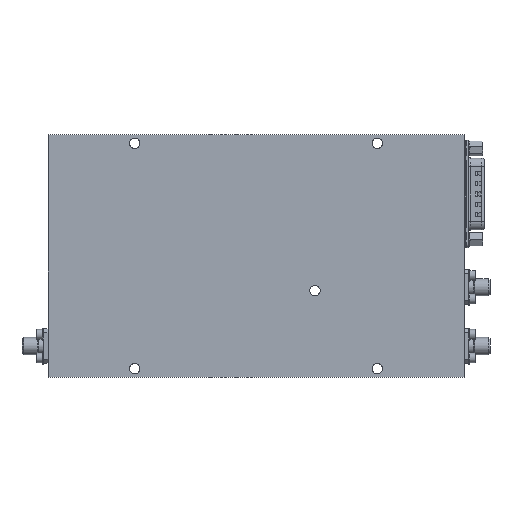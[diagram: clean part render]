
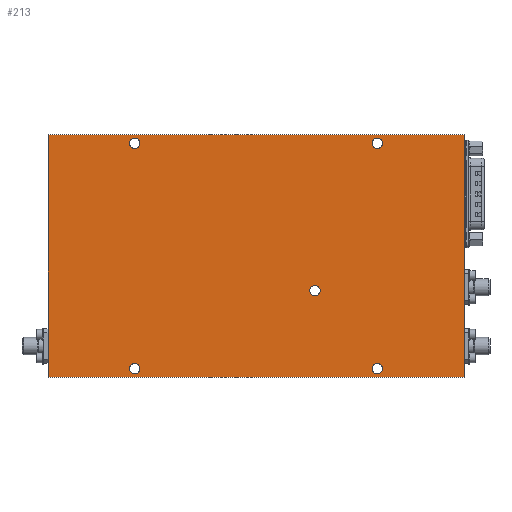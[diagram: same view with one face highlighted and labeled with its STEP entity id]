
A CAD part, top view. The second image highlights one B-rep face of the part: STEP entity #213.
In plain terms, the highlighted planar face has unit normal (0, 0, 1).
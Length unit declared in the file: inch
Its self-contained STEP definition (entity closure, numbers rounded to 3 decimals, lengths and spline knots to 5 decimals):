
#119=CARTESIAN_POINT('',(0.0,0.,0.693));
#120=DIRECTION('',(0.0,0.0,1.0));
#121=DIRECTION('',(1.0,0.0,0.0));
#122=AXIS2_PLACEMENT_3D('',#119,#120,#121);
#123=PLANE('',#122);
#124=CARTESIAN_POINT('',(3.0,1.75,0.693));
#125=VERTEX_POINT('',#124);
#126=CARTESIAN_POINT('',(-3.0,1.75,0.693));
#127=VERTEX_POINT('',#126);
#128=CARTESIAN_POINT('',(3.0,1.75,0.693));
#129=DIRECTION('',(-1.0,0.0,0.0));
#130=VECTOR('',#129,6.0);
#131=LINE('',#128,#130);
#132=EDGE_CURVE('',#125,#127,#131,.T.);
#133=ORIENTED_EDGE('',*,*,#132,.T.);
#134=CARTESIAN_POINT('',(-3.0,-1.75,0.693));
#135=VERTEX_POINT('',#134);
#136=CARTESIAN_POINT('',(-3.0,1.75,0.693));
#137=DIRECTION('',(0.0,-1.0,0.0));
#138=VECTOR('',#137,3.5);
#139=LINE('',#136,#138);
#140=EDGE_CURVE('',#127,#135,#139,.T.);
#141=ORIENTED_EDGE('',*,*,#140,.T.);
#142=CARTESIAN_POINT('',(3.0,-1.75,0.693));
#143=VERTEX_POINT('',#142);
#144=CARTESIAN_POINT('',(-3.0,-1.75,0.693));
#145=DIRECTION('',(1.0,0.0,0.0));
#146=VECTOR('',#145,6.);
#147=LINE('',#144,#146);
#148=EDGE_CURVE('',#135,#143,#147,.T.);
#149=ORIENTED_EDGE('',*,*,#148,.T.);
#150=CARTESIAN_POINT('',(3.0,-1.75,0.693));
#151=DIRECTION('',(0.0,1.0,0.0));
#152=VECTOR('',#151,3.5);
#153=LINE('',#150,#152);
#154=EDGE_CURVE('',#143,#125,#153,.T.);
#155=ORIENTED_EDGE('',*,*,#154,.T.);
#156=EDGE_LOOP('',(#133,#141,#149,#155));
#157=FACE_OUTER_BOUND('',#156,.T.);
#158=CARTESIAN_POINT('',(1.825,-1.625,0.693));
#159=VERTEX_POINT('',#158);
#160=CARTESIAN_POINT('',(1.75,-1.625,0.693));
#161=DIRECTION('',(0.0,0.0,-1.0));
#162=DIRECTION('',(-1.0,0.0,0.0));
#163=AXIS2_PLACEMENT_3D('',#160,#161,#162);
#164=CIRCLE('',#163,0.075);
#165=EDGE_CURVE('',#159,#159,#164,.T.);
#166=ORIENTED_EDGE('',*,*,#165,.T.);
#167=EDGE_LOOP('',(#166));
#168=FACE_BOUND('',#167,.T.);
#169=CARTESIAN_POINT('',(1.825,1.625,0.693));
#170=VERTEX_POINT('',#169);
#171=CARTESIAN_POINT('',(1.75,1.625,0.693));
#172=DIRECTION('',(0.0,0.0,-1.0));
#173=DIRECTION('',(-1.0,0.0,0.0));
#174=AXIS2_PLACEMENT_3D('',#171,#172,#173);
#175=CIRCLE('',#174,0.075);
#176=EDGE_CURVE('',#170,#170,#175,.T.);
#177=ORIENTED_EDGE('',*,*,#176,.T.);
#178=EDGE_LOOP('',(#177));
#179=FACE_BOUND('',#178,.T.);
#180=CARTESIAN_POINT('',(-1.675,1.625,0.693));
#181=VERTEX_POINT('',#180);
#182=CARTESIAN_POINT('',(-1.75,1.625,0.693));
#183=DIRECTION('',(0.0,0.0,-1.0));
#184=DIRECTION('',(-1.0,0.0,0.0));
#185=AXIS2_PLACEMENT_3D('',#182,#183,#184);
#186=CIRCLE('',#185,0.075);
#187=EDGE_CURVE('',#181,#181,#186,.T.);
#188=ORIENTED_EDGE('',*,*,#187,.T.);
#189=EDGE_LOOP('',(#188));
#190=FACE_BOUND('',#189,.T.);
#191=CARTESIAN_POINT('',(-1.675,-1.625,0.693));
#192=VERTEX_POINT('',#191);
#193=CARTESIAN_POINT('',(-1.75,-1.625,0.693));
#194=DIRECTION('',(0.0,0.0,-1.0));
#195=DIRECTION('',(-1.0,0.0,0.0));
#196=AXIS2_PLACEMENT_3D('',#193,#194,#195);
#197=CIRCLE('',#196,0.075);
#198=EDGE_CURVE('',#192,#192,#197,.T.);
#199=ORIENTED_EDGE('',*,*,#198,.T.);
#200=EDGE_LOOP('',(#199));
#201=FACE_BOUND('',#200,.T.);
#202=CARTESIAN_POINT('',(0.925,-0.5,0.693));
#203=VERTEX_POINT('',#202);
#204=CARTESIAN_POINT('',(0.85,-0.5,0.693));
#205=DIRECTION('',(0.0,0.0,-1.0));
#206=DIRECTION('',(-1.0,0.0,0.0));
#207=AXIS2_PLACEMENT_3D('',#204,#205,#206);
#208=CIRCLE('',#207,0.075);
#209=EDGE_CURVE('',#203,#203,#208,.T.);
#210=ORIENTED_EDGE('',*,*,#209,.T.);
#211=EDGE_LOOP('',(#210));
#212=FACE_BOUND('',#211,.T.);
#213=ADVANCED_FACE('',(#157,#168,#179,#190,#201,#212),#123,.T.);
